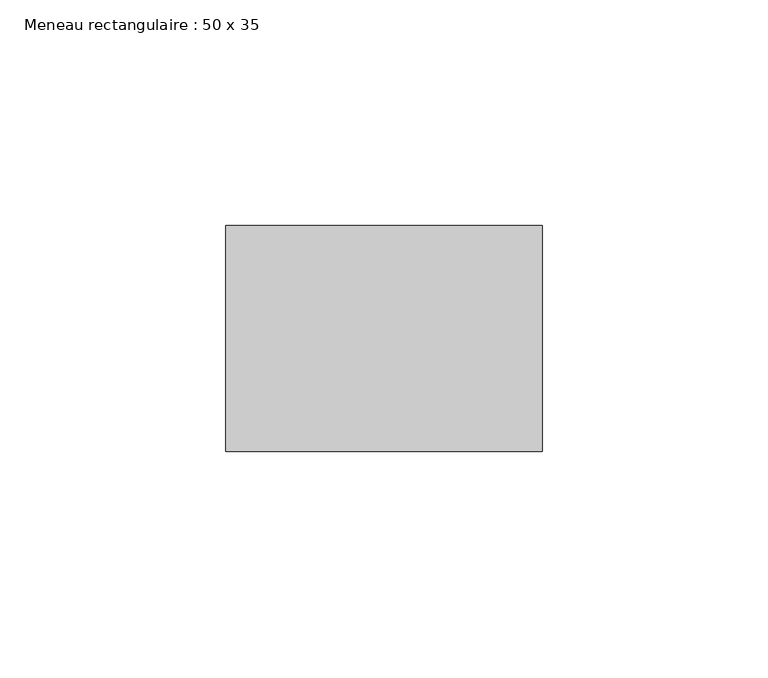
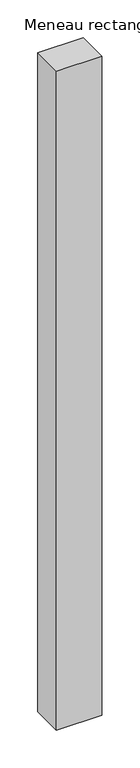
"""IFC4 building model written with IfcOpenShell, lengths in millimetres: member geometry, Meneau rectangulaire : 50 x 35."""

from ifc_helpers import new_model, si_unit, frame, origin, place, context, project, spatial, polyline, outline, extrude, source, transform, mapped, element, save


def meneau_rectangulaire_50_x_35_d5670917(model_context):
    return source(origin(), model_context, "Body", "SweptSolid", [
        extrude(outline(polyline([(35.0, 0.0), (35.0, -50.0), (-35.0, -50.0), (-35.0, 0.0), (35.0, 0.0)])), frame((0.0, 0.0, -1070.0), z_axis=(0.0, 0.0, 1.0), x_axis=(1.0, 0.0, 0.0)), (0.0, 0.0, 1.0), 1070.0),
    ])


if __name__ == "__main__":
    model = new_model("IFC4")
    model_context = context("Model", 3, world=origin())
    ifc_project = project(units=[si_unit("LENGTHUNIT", "METRE", prefix="MILLI")], contexts=[model_context])
    site = spatial("IfcSite", under=ifc_project)
    building = spatial("IfcBuilding", under=site)
    placement = place(None, origin())
    meneau_rectangulaire_50_x_35_shape = meneau_rectangulaire_50_x_35_d5670917(model_context)
    element("IfcMember", 1, ObjectType="Meneau rectangulaire : 50 x 35", at=placement, inside=building, context=model_context, shape_type="MappedRepresentation", body=[
        mapped(meneau_rectangulaire_50_x_35_shape, transform((0.0, 0.0, 0.0), x_axis=(1.0, 0.0, 0.0), y_axis=(0.0, 1.0, 0.0), z_axis=(0.0, 0.0, 1.0))),
    ])
    save(model, "model.ifc")
